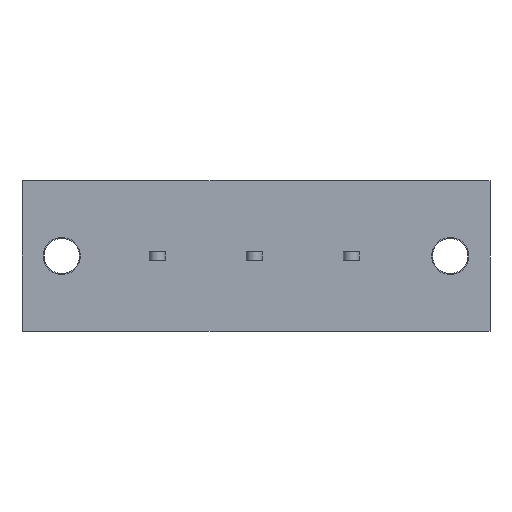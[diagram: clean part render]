
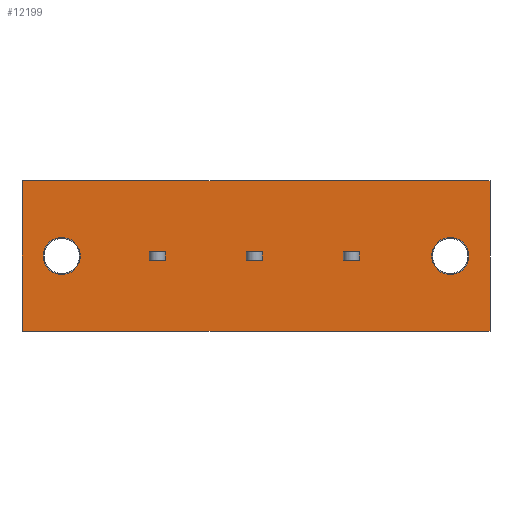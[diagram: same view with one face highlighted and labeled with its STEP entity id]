
A CAD part, front view. The second image highlights one B-rep face of the part: STEP entity #12199.
In plain terms, the highlighted planar face has unit normal (0, -1, 0).
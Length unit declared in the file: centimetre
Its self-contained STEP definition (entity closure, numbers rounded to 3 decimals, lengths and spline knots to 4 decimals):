
#908=VECTOR('',#13282,1.);
#1399=VECTOR('',#14081,1.);
#1568=VECTOR('',#14524,1.);
#1572=VECTOR('',#14529,1.);
#1583=VECTOR('',#14562,1.);
#1585=VECTOR('',#14565,1.);
#1703=VECTOR('',#14879,1.);
#1707=VECTOR('',#14884,1.);
#1718=VECTOR('',#14917,1.);
#1720=VECTOR('',#14920,1.);
#1787=VECTOR('',#15045,1.);
#1788=VECTOR('',#15046,1.);
#1789=VECTOR('',#15047,1.);
#1790=VECTOR('',#15048,1.);
#1791=VECTOR('',#15049,1.);
#1792=VECTOR('',#15050,1.);
#2250=LINE('',#16696,#908);
#2741=LINE('',#18535,#1399);
#2910=LINE('',#19090,#1568);
#2914=LINE('',#19099,#1572);
#2925=LINE('',#19134,#1583);
#2927=LINE('',#19138,#1585);
#3045=LINE('',#19539,#1703);
#3049=LINE('',#19548,#1707);
#3060=LINE('',#19583,#1718);
#3062=LINE('',#19587,#1720);
#3129=LINE('',#19749,#1787);
#3130=LINE('',#19752,#1788);
#3131=LINE('',#19754,#1789);
#3132=LINE('',#19756,#1790);
#3133=LINE('',#19757,#1791);
#3134=LINE('',#19758,#1792);
#3596=VERTEX_POINT('',#16697);
#3597=VERTEX_POINT('',#16698);
#3608=VERTEX_POINT('',#16722);
#4043=VERTEX_POINT('',#18536);
#4044=VERTEX_POINT('',#18537);
#4055=VERTEX_POINT('',#18561);
#4226=VERTEX_POINT('',#19091);
#4227=VERTEX_POINT('',#19092);
#4230=VERTEX_POINT('',#19100);
#4241=VERTEX_POINT('',#19135);
#4364=VERTEX_POINT('',#19540);
#4365=VERTEX_POINT('',#19541);
#4368=VERTEX_POINT('',#19549);
#4379=VERTEX_POINT('',#19584);
#4437=VERTEX_POINT('',#19750);
#4438=VERTEX_POINT('',#19751);
#4439=VERTEX_POINT('',#19753);
#4440=VERTEX_POINT('',#19755);
#4460=CIRCLE('',#20000,0.21);
#4503=CIRCLE('',#20237,0.21);
#5180=EDGE_CURVE('',#3596,#3597,#2250,.T.);
#5192=EDGE_CURVE('',#3608,#3608,#4460,.T.);
#5835=EDGE_CURVE('',#4043,#4044,#2741,.T.);
#5847=EDGE_CURVE('',#4055,#4055,#4503,.T.);
#6096=EDGE_CURVE('',#4226,#4227,#2910,.T.);
#6100=EDGE_CURVE('',#4230,#4226,#2914,.T.);
#6117=EDGE_CURVE('',#4241,#4230,#2925,.T.);
#6119=EDGE_CURVE('',#4227,#4241,#2927,.T.);
#6302=EDGE_CURVE('',#4364,#4365,#3045,.T.);
#6306=EDGE_CURVE('',#4368,#4364,#3049,.T.);
#6323=EDGE_CURVE('',#4379,#4368,#3060,.T.);
#6325=EDGE_CURVE('',#4365,#4379,#3062,.T.);
#6408=EDGE_CURVE('',#4437,#4438,#3129,.T.);
#6409=EDGE_CURVE('',#4439,#4437,#3130,.T.);
#6410=EDGE_CURVE('',#4440,#4439,#3131,.T.);
#6411=EDGE_CURVE('',#4438,#4440,#3132,.T.);
#6412=EDGE_CURVE('',#4044,#3596,#3133,.T.);
#6413=EDGE_CURVE('',#3597,#4043,#3134,.T.);
#9873=ORIENTED_EDGE('',*,*,#5192,.T.);
#9874=ORIENTED_EDGE('',*,*,#5847,.T.);
#9875=ORIENTED_EDGE('',*,*,#6408,.F.);
#9876=ORIENTED_EDGE('',*,*,#6409,.F.);
#9877=ORIENTED_EDGE('',*,*,#6410,.F.);
#9878=ORIENTED_EDGE('',*,*,#6411,.F.);
#9879=ORIENTED_EDGE('',*,*,#6100,.T.);
#9880=ORIENTED_EDGE('',*,*,#6096,.T.);
#9881=ORIENTED_EDGE('',*,*,#6119,.T.);
#9882=ORIENTED_EDGE('',*,*,#6117,.T.);
#9883=ORIENTED_EDGE('',*,*,#6306,.T.);
#9884=ORIENTED_EDGE('',*,*,#6302,.T.);
#9885=ORIENTED_EDGE('',*,*,#6325,.T.);
#9886=ORIENTED_EDGE('',*,*,#6323,.T.);
#9887=ORIENTED_EDGE('',*,*,#6412,.T.);
#9888=ORIENTED_EDGE('',*,*,#5180,.T.);
#9889=ORIENTED_EDGE('',*,*,#6413,.T.);
#9890=ORIENTED_EDGE('',*,*,#5835,.T.);
#10776=EDGE_LOOP('',(#9873));
#10777=EDGE_LOOP('',(#9874));
#10778=EDGE_LOOP('',(#9875,#9876,#9877,#9878));
#10779=EDGE_LOOP('',(#9879,#9880,#9881,#9882));
#10780=EDGE_LOOP('',(#9883,#9884,#9885,#9886));
#10781=EDGE_LOOP('',(#9887,#9888,#9889,#9890));
#11524=FACE_BOUND('',#10776,.T.);
#11525=FACE_BOUND('',#10777,.T.);
#11526=FACE_BOUND('',#10778,.T.);
#11527=FACE_BOUND('',#10779,.T.);
#11528=FACE_BOUND('',#10780,.T.);
#11529=FACE_BOUND('',#10781,.T.);
#12199=ADVANCED_FACE('',(#11524,#11525,#11526,#11527,#11528,#11529),#12665,
 .T.);
#12665=PLANE('',#20583);
#13282=DIRECTION('',(0.,0.,1.));
#13300=DIRECTION('',(0.,1.,0.));
#13301=DIRECTION('',(0.21,0.,0.));
#14081=DIRECTION('',(0.,0.,-1.));
#14099=DIRECTION('',(0.,1.,0.));
#14100=DIRECTION('',(-0.21,0.,0.));
#14524=DIRECTION('',(0.,0.,1.));
#14529=DIRECTION('',(-1.,0.,0.));
#14562=DIRECTION('',(0.,0.,-1.));
#14565=DIRECTION('',(1.,0.,0.));
#14879=DIRECTION('',(0.,0.,1.));
#14884=DIRECTION('',(-1.,0.,0.));
#14917=DIRECTION('',(0.,0.,-1.));
#14920=DIRECTION('',(1.,0.,0.));
#15044=DIRECTION('',(0.,-1.,0.));
#15045=DIRECTION('',(1.,0.,0.));
#15046=DIRECTION('',(0.,0.,-1.));
#15047=DIRECTION('',(-1.,0.,0.));
#15048=DIRECTION('',(0.,0.,1.));
#15049=DIRECTION('',(1.,0.,0.));
#15050=DIRECTION('',(-1.,0.,0.));
#16696=CARTESIAN_POINT('',(3.3,0.,0.85));
#16697=CARTESIAN_POINT('',(3.3,0.,-0.85));
#16698=CARTESIAN_POINT('',(3.3,0.,0.85));
#16721=CARTESIAN_POINT('',(2.85,0.,0.));
#16722=CARTESIAN_POINT('',(2.64,0.,0.));
#18535=CARTESIAN_POINT('',(-2.,0.,-0.85));
#18536=CARTESIAN_POINT('',(-2.,0.,0.85));
#18537=CARTESIAN_POINT('',(-2.,0.,-0.85));
#18560=CARTESIAN_POINT('',(-1.55,0.,0.));
#18561=CARTESIAN_POINT('',(-1.34,0.,0.));
#19090=CARTESIAN_POINT('',(1.64,0.,-0.175));
#19091=CARTESIAN_POINT('',(1.64,0.,-0.05));
#19092=CARTESIAN_POINT('',(1.64,0.,0.05));
#19099=CARTESIAN_POINT('',(0.865,0.,-0.05));
#19100=CARTESIAN_POINT('',(1.82,0.,-0.05));
#19134=CARTESIAN_POINT('',(1.82,0.,-0.175));
#19135=CARTESIAN_POINT('',(1.82,0.,0.05));
#19138=CARTESIAN_POINT('',(0.865,0.,0.05));
#19539=CARTESIAN_POINT('',(0.54,0.,-0.175));
#19540=CARTESIAN_POINT('',(0.54,0.,-0.05));
#19541=CARTESIAN_POINT('',(0.54,0.,0.05));
#19548=CARTESIAN_POINT('',(0.315,0.,-0.05));
#19549=CARTESIAN_POINT('',(0.72,0.,-0.05));
#19583=CARTESIAN_POINT('',(0.72,0.,-0.175));
#19584=CARTESIAN_POINT('',(0.72,0.,0.05));
#19587=CARTESIAN_POINT('',(0.315,0.,0.05));
#19748=CARTESIAN_POINT('',(0.,0.,0.));
#19749=CARTESIAN_POINT('',(-0.685,0.,-0.05));
#19750=CARTESIAN_POINT('',(-0.56,0.,-0.05));
#19751=CARTESIAN_POINT('',(-0.38,0.,-0.05));
#19752=CARTESIAN_POINT('',(-0.56,0.,-0.175));
#19753=CARTESIAN_POINT('',(-0.56,0.,0.05));
#19754=CARTESIAN_POINT('',(-0.685,0.,0.05));
#19755=CARTESIAN_POINT('',(-0.38,0.,0.05));
#19756=CARTESIAN_POINT('',(-0.38,0.,-0.175));
#19757=CARTESIAN_POINT('',(0.,0.,-0.85));
#19758=CARTESIAN_POINT('',(-1.1,0.,0.85));
#20000=AXIS2_PLACEMENT_3D('',#16721,#13300,#13301);
#20237=AXIS2_PLACEMENT_3D('',#18560,#14099,#14100);
#20583=AXIS2_PLACEMENT_3D('',#19748,#15044,$);
